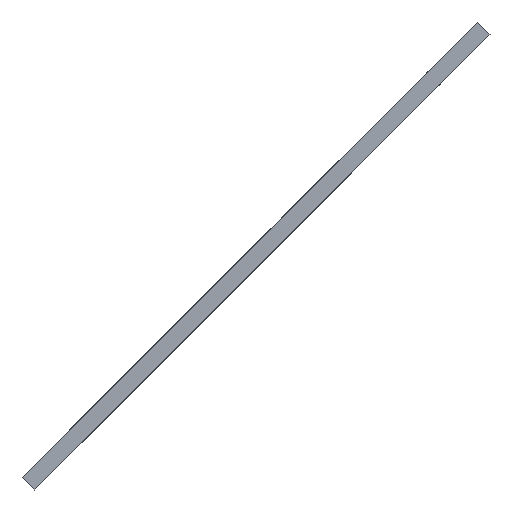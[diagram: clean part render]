
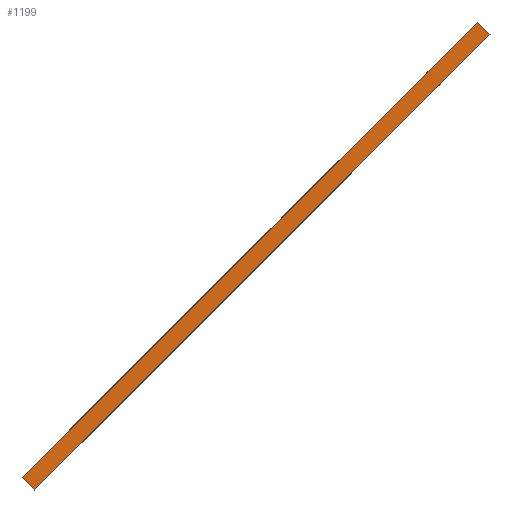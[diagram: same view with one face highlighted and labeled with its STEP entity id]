
A CAD part, front view. The second image highlights one B-rep face of the part: STEP entity #1199.
In plain terms, the highlighted planar face has unit normal (0, -1, 0).
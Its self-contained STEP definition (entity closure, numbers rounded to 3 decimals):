
#22 = VERTEX_POINT('',#23);
#23 = CARTESIAN_POINT('',(0.,0.,30.728));
#32 = PLANE('',#33);
#33 = AXIS2_PLACEMENT_3D('',#34,#35,#36);
#34 = CARTESIAN_POINT('',(0.,0.,30.728));
#35 = DIRECTION('',(-0.707,0.,-0.707));
#36 = DIRECTION('',(0.707,0.,-0.707));
#44 = PLANE('',#45);
#45 = AXIS2_PLACEMENT_3D('',#46,#47,#48);
#46 = CARTESIAN_POINT('',(469.272,0.,500.));
#47 = DIRECTION('',(-0.707,0.,0.707));
#48 = DIRECTION('',(-0.707,0.,-0.707));
#85 = VERTEX_POINT('',#86);
#86 = CARTESIAN_POINT('',(12.728,0.,18.));
#100 = PLANE('',#101);
#101 = AXIS2_PLACEMENT_3D('',#102,#103,#104);
#102 = CARTESIAN_POINT('',(12.728,0.,18.));
#103 = DIRECTION('',(0.707,0.,-0.707));
#104 = DIRECTION('',(0.707,0.,0.707));
#112 = EDGE_CURVE('',#22,#85,#113,.T.);
#113 = SURFACE_CURVE('',#114,(#118,#125),.PCURVE_S1.);
#114 = LINE('',#115,#116);
#115 = CARTESIAN_POINT('',(0.,0.,30.728));
#116 = VECTOR('',#117,1.);
#117 = DIRECTION('',(0.707,0.,-0.707));
#118 = PCURVE('',#32,#119);
#119 = DEFINITIONAL_REPRESENTATION('',(#120),#124);
#120 = LINE('',#121,#122);
#121 = CARTESIAN_POINT('',(0.,0.));
#122 = VECTOR('',#123,1.);
#123 = DIRECTION('',(1.,0.));
#124 = ( GEOMETRIC_REPRESENTATION_CONTEXT(2) 
PARAMETRIC_REPRESENTATION_CONTEXT() REPRESENTATION_CONTEXT('2D SPACE',''
  ) );
#125 = PCURVE('',#126,#131);
#126 = PLANE('',#127);
#127 = AXIS2_PLACEMENT_3D('',#128,#129,#130);
#128 = CARTESIAN_POINT('',(241.,0.,259.));
#129 = DIRECTION('',(-0.,-1.,-0.));
#130 = DIRECTION('',(0.,0.,-1.));
#131 = DEFINITIONAL_REPRESENTATION('',(#132),#136);
#132 = LINE('',#133,#134);
#133 = CARTESIAN_POINT('',(228.272,-241.));
#134 = VECTOR('',#135,1.);
#135 = DIRECTION('',(0.707,0.707));
#136 = ( GEOMETRIC_REPRESENTATION_CONTEXT(2) 
PARAMETRIC_REPRESENTATION_CONTEXT() REPRESENTATION_CONTEXT('2D SPACE',''
  ) );
#142 = VERTEX_POINT('',#143);
#143 = CARTESIAN_POINT('',(469.272,0.,500.));
#159 = PLANE('',#160);
#160 = AXIS2_PLACEMENT_3D('',#161,#162,#163);
#161 = CARTESIAN_POINT('',(482.,0.,487.272));
#162 = DIRECTION('',(0.707,-0.,0.707));
#163 = DIRECTION('',(-0.707,0.,0.707));
#193 = EDGE_CURVE('',#142,#22,#194,.T.);
#194 = SURFACE_CURVE('',#195,(#199,#206),.PCURVE_S1.);
#195 = LINE('',#196,#197);
#196 = CARTESIAN_POINT('',(469.272,0.,500.));
#197 = VECTOR('',#198,1.);
#198 = DIRECTION('',(-0.707,0.,-0.707));
#199 = PCURVE('',#44,#200);
#200 = DEFINITIONAL_REPRESENTATION('',(#201),#205);
#201 = LINE('',#202,#203);
#202 = CARTESIAN_POINT('',(0.,0.));
#203 = VECTOR('',#204,1.);
#204 = DIRECTION('',(1.,0.));
#205 = ( GEOMETRIC_REPRESENTATION_CONTEXT(2) 
PARAMETRIC_REPRESENTATION_CONTEXT() REPRESENTATION_CONTEXT('2D SPACE',''
  ) );
#206 = PCURVE('',#126,#207);
#207 = DEFINITIONAL_REPRESENTATION('',(#208),#212);
#208 = LINE('',#209,#210);
#209 = CARTESIAN_POINT('',(-241.,228.272));
#210 = VECTOR('',#211,1.);
#211 = DIRECTION('',(0.707,-0.707));
#212 = ( GEOMETRIC_REPRESENTATION_CONTEXT(2) 
PARAMETRIC_REPRESENTATION_CONTEXT() REPRESENTATION_CONTEXT('2D SPACE',''
  ) );
#707 = VERTEX_POINT('',#708);
#708 = CARTESIAN_POINT('',(482.,0.,487.272));
#729 = EDGE_CURVE('',#85,#707,#730,.T.);
#730 = SURFACE_CURVE('',#731,(#735,#742),.PCURVE_S1.);
#731 = LINE('',#732,#733);
#732 = CARTESIAN_POINT('',(12.728,0.,18.));
#733 = VECTOR('',#734,1.);
#734 = DIRECTION('',(0.707,0.,0.707));
#735 = PCURVE('',#100,#736);
#736 = DEFINITIONAL_REPRESENTATION('',(#737),#741);
#737 = LINE('',#738,#739);
#738 = CARTESIAN_POINT('',(0.,0.));
#739 = VECTOR('',#740,1.);
#740 = DIRECTION('',(1.,0.));
#741 = ( GEOMETRIC_REPRESENTATION_CONTEXT(2) 
PARAMETRIC_REPRESENTATION_CONTEXT() REPRESENTATION_CONTEXT('2D SPACE',''
  ) );
#742 = PCURVE('',#126,#743);
#743 = DEFINITIONAL_REPRESENTATION('',(#744),#748);
#744 = LINE('',#745,#746);
#745 = CARTESIAN_POINT('',(241.,-228.272));
#746 = VECTOR('',#747,1.);
#747 = DIRECTION('',(-0.707,0.707));
#748 = ( GEOMETRIC_REPRESENTATION_CONTEXT(2) 
PARAMETRIC_REPRESENTATION_CONTEXT() REPRESENTATION_CONTEXT('2D SPACE',''
  ) );
#1199 = ADVANCED_FACE('',(#1200),#126,.T.);
#1200 = FACE_BOUND('',#1201,.T.);
#1201 = EDGE_LOOP('',(#1202,#1203,#1204,#1225));
#1202 = ORIENTED_EDGE('',*,*,#112,.T.);
#1203 = ORIENTED_EDGE('',*,*,#729,.T.);
#1204 = ORIENTED_EDGE('',*,*,#1205,.T.);
#1205 = EDGE_CURVE('',#707,#142,#1206,.T.);
#1206 = SURFACE_CURVE('',#1207,(#1211,#1218),.PCURVE_S1.);
#1207 = LINE('',#1208,#1209);
#1208 = CARTESIAN_POINT('',(482.,0.,487.272));
#1209 = VECTOR('',#1210,1.);
#1210 = DIRECTION('',(-0.707,0.,0.707));
#1211 = PCURVE('',#126,#1212);
#1212 = DEFINITIONAL_REPRESENTATION('',(#1213),#1217);
#1213 = LINE('',#1214,#1215);
#1214 = CARTESIAN_POINT('',(-228.272,241.));
#1215 = VECTOR('',#1216,1.);
#1216 = DIRECTION('',(-0.707,-0.707));
#1217 = ( GEOMETRIC_REPRESENTATION_CONTEXT(2) 
PARAMETRIC_REPRESENTATION_CONTEXT() REPRESENTATION_CONTEXT('2D SPACE',''
  ) );
#1218 = PCURVE('',#159,#1219);
#1219 = DEFINITIONAL_REPRESENTATION('',(#1220),#1224);
#1220 = LINE('',#1221,#1222);
#1221 = CARTESIAN_POINT('',(0.,0.));
#1222 = VECTOR('',#1223,1.);
#1223 = DIRECTION('',(1.,0.));
#1224 = ( GEOMETRIC_REPRESENTATION_CONTEXT(2) 
PARAMETRIC_REPRESENTATION_CONTEXT() REPRESENTATION_CONTEXT('2D SPACE',''
  ) );
#1225 = ORIENTED_EDGE('',*,*,#193,.T.);
